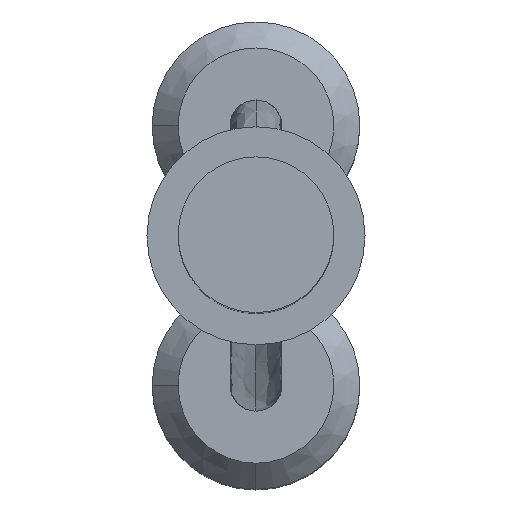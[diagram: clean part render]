
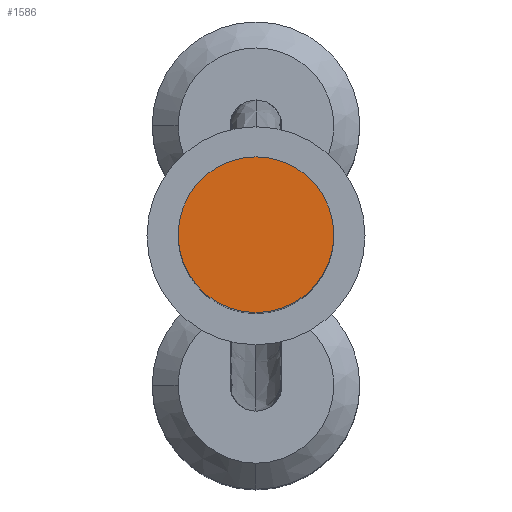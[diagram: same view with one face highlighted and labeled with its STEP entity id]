
A CAD part, top view. The second image highlights one B-rep face of the part: STEP entity #1586.
In plain terms, the highlighted planar face has unit normal (0, 0, 1).
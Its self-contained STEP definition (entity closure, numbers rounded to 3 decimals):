
#425=CARTESIAN_POINT('',(0.,0.,15.));
#426=DIRECTION('',(0.,0.,-1.));
#427=DIRECTION('',(-1.,0.,0.));
#428=AXIS2_PLACEMENT_3D('',#425,#426,#427);
#430=CARTESIAN_POINT('',(0.,0.,15.));
#431=DIRECTION('',(0.,0.,-1.));
#432=DIRECTION('',(1.,0.,0.));
#433=AXIS2_PLACEMENT_3D('',#430,#431,#432);
#886=CARTESIAN_POINT('',(1.5,0.,15.));
#887=VERTEX_POINT('',#886);
#888=CARTESIAN_POINT('',(-1.5,0.,15.));
#889=VERTEX_POINT('',#888);
#1577=CARTESIAN_POINT('',(0.,0.,15.));
#1578=DIRECTION('',(0.,0.,1.));
#1579=DIRECTION('',(1.,0.,0.));
#1580=AXIS2_PLACEMENT_3D('',#1577,#1578,#1579);
#1581=PLANE('',#1580);
#1582=ORIENTED_EDGE('',*,*,#1557,.T.);
#1583=ORIENTED_EDGE('',*,*,#1571,.T.);
#1584=EDGE_LOOP('',(#1582,#1583));
#1585=FACE_OUTER_BOUND('',#1584,.F.);
#1586=ADVANCED_FACE('',(#1585),#1581,.T.);
#429=CIRCLE('',#428,1.5);
#434=CIRCLE('',#433,1.5);
#1557=EDGE_CURVE('',#889,#887,#429,.T.);
#1571=EDGE_CURVE('',#887,#889,#434,.T.);
